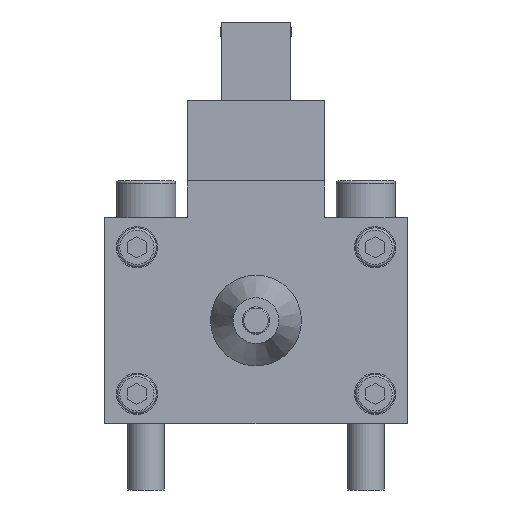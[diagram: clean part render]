
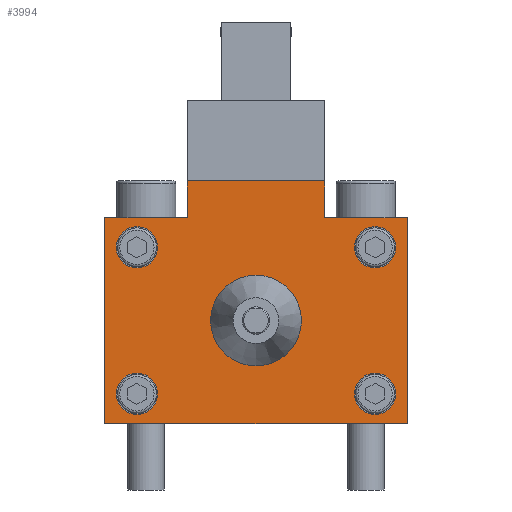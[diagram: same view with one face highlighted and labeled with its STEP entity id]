
A CAD part, left-side view. The second image highlights one B-rep face of the part: STEP entity #3994.
In plain terms, the highlighted planar face has unit normal (-1, 0, 0).
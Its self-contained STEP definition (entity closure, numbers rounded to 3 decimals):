
#1183=CARTESIAN_POINT('',(-84.0,-26.,11.5));
#1184=VERTEX_POINT('',#1183);
#1185=CARTESIAN_POINT('',(-84.0,-26.,16.));
#1186=DIRECTION('',(1.0,0.0,0.0));
#1187=DIRECTION('',(0.0,0.0,1.0));
#1188=AXIS2_PLACEMENT_3D('',#1185,#1186,#1187);
#1189=CIRCLE('',#1188,4.5);
#1190=EDGE_CURVE('',#1184,#1184,#1189,.T.);
#1223=CARTESIAN_POINT('',(-84.0,26.,11.5));
#1224=VERTEX_POINT('',#1223);
#1225=CARTESIAN_POINT('',(-84.0,26.,16.));
#1226=DIRECTION('',(1.0,0.0,0.0));
#1227=DIRECTION('',(0.0,0.0,1.0));
#1228=AXIS2_PLACEMENT_3D('',#1225,#1226,#1227);
#1229=CIRCLE('',#1228,4.5);
#1230=EDGE_CURVE('',#1224,#1224,#1229,.T.);
#1263=CARTESIAN_POINT('',(-84.0,26.,-20.5));
#1264=VERTEX_POINT('',#1263);
#1265=CARTESIAN_POINT('',(-84.0,26.,-16.));
#1266=DIRECTION('',(1.0,0.0,0.0));
#1267=DIRECTION('',(0.0,0.0,1.0));
#1268=AXIS2_PLACEMENT_3D('',#1265,#1266,#1267);
#1269=CIRCLE('',#1268,4.5);
#1270=EDGE_CURVE('',#1264,#1264,#1269,.T.);
#1303=CARTESIAN_POINT('',(-84.0,-26.,-20.5));
#1304=VERTEX_POINT('',#1303);
#1305=CARTESIAN_POINT('',(-84.0,-26.,-16.));
#1306=DIRECTION('',(1.0,0.0,0.0));
#1307=DIRECTION('',(0.0,0.0,1.0));
#1308=AXIS2_PLACEMENT_3D('',#1305,#1306,#1307);
#1309=CIRCLE('',#1308,4.5);
#1310=EDGE_CURVE('',#1304,#1304,#1309,.T.);
#3900=CARTESIAN_POINT('',(-84.0,-33.0,0.0));
#3901=DIRECTION('',(-1.0,0.0,0.0));
#3902=DIRECTION('',(0.0,0.0,1.0));
#3903=AXIS2_PLACEMENT_3D('',#3900,#3901,#3902);
#3904=PLANE('',#3903);
#3905=CARTESIAN_POINT('',(-84.0,33.0,-22.5));
#3906=VERTEX_POINT('',#3905);
#3907=CARTESIAN_POINT('',(-84.0,-33.0,-22.5));
#3908=VERTEX_POINT('',#3907);
#3909=CARTESIAN_POINT('',(-84.0,33.0,-22.5));
#3910=DIRECTION('',(0.0,-1.0,0.0));
#3911=VECTOR('',#3910,66.0);
#3912=LINE('',#3909,#3911);
#3913=EDGE_CURVE('',#3906,#3908,#3912,.T.);
#3914=ORIENTED_EDGE('',*,*,#3913,.T.);
#3915=CARTESIAN_POINT('',(-84.0,-33.0,22.5));
#3916=VERTEX_POINT('',#3915);
#3917=CARTESIAN_POINT('',(-84.0,-33.0,22.5));
#3918=DIRECTION('',(0.0,0.0,-1.0));
#3919=VECTOR('',#3918,45.0);
#3920=LINE('',#3917,#3919);
#3921=EDGE_CURVE('',#3916,#3908,#3920,.T.);
#3922=ORIENTED_EDGE('',*,*,#3921,.F.);
#3923=CARTESIAN_POINT('',(-84.0,-15.0,22.5));
#3924=VERTEX_POINT('',#3923);
#3925=CARTESIAN_POINT('',(-84.0,-33.0,22.5));
#3926=DIRECTION('',(0.0,1.0,0.0));
#3927=VECTOR('',#3926,18.0);
#3928=LINE('',#3925,#3927);
#3929=EDGE_CURVE('',#3916,#3924,#3928,.T.);
#3930=ORIENTED_EDGE('',*,*,#3929,.T.);
#3931=CARTESIAN_POINT('',(-84.0,-15.0,30.5));
#3932=VERTEX_POINT('',#3931);
#3933=CARTESIAN_POINT('',(-84.0,-15.0,22.5));
#3934=DIRECTION('',(0.0,0.0,1.0));
#3935=VECTOR('',#3934,8.0);
#3936=LINE('',#3933,#3935);
#3937=EDGE_CURVE('',#3924,#3932,#3936,.T.);
#3938=ORIENTED_EDGE('',*,*,#3937,.T.);
#3939=CARTESIAN_POINT('',(-84.0,15.0,30.5));
#3940=VERTEX_POINT('',#3939);
#3941=CARTESIAN_POINT('',(-84.0,-15.0,30.5));
#3942=DIRECTION('',(0.0,1.0,0.0));
#3943=VECTOR('',#3942,30.0);
#3944=LINE('',#3941,#3943);
#3945=EDGE_CURVE('',#3932,#3940,#3944,.T.);
#3946=ORIENTED_EDGE('',*,*,#3945,.T.);
#3947=CARTESIAN_POINT('',(-84.0,15.0,22.5));
#3948=VERTEX_POINT('',#3947);
#3949=CARTESIAN_POINT('',(-84.0,15.0,22.5));
#3950=DIRECTION('',(0.0,0.0,1.0));
#3951=VECTOR('',#3950,8.0);
#3952=LINE('',#3949,#3951);
#3953=EDGE_CURVE('',#3948,#3940,#3952,.T.);
#3954=ORIENTED_EDGE('',*,*,#3953,.F.);
#3955=CARTESIAN_POINT('',(-84.0,33.0,22.5));
#3956=VERTEX_POINT('',#3955);
#3957=CARTESIAN_POINT('',(-84.0,15.0,22.5));
#3958=DIRECTION('',(0.0,1.0,0.0));
#3959=VECTOR('',#3958,18.0);
#3960=LINE('',#3957,#3959);
#3961=EDGE_CURVE('',#3948,#3956,#3960,.T.);
#3962=ORIENTED_EDGE('',*,*,#3961,.T.);
#3963=CARTESIAN_POINT('',(-84.0,33.0,-22.5));
#3964=DIRECTION('',(0.0,0.0,1.0));
#3965=VECTOR('',#3964,45.0);
#3966=LINE('',#3963,#3965);
#3967=EDGE_CURVE('',#3906,#3956,#3966,.T.);
#3968=ORIENTED_EDGE('',*,*,#3967,.F.);
#3969=EDGE_LOOP('',(#3914,#3922,#3930,#3938,#3946,#3954,#3962,#3968));
#3970=FACE_OUTER_BOUND('',#3969,.T.);
#3971=ORIENTED_EDGE('',*,*,#1190,.T.);
#3972=EDGE_LOOP('',(#3971));
#3973=FACE_BOUND('',#3972,.T.);
#3974=ORIENTED_EDGE('',*,*,#1230,.T.);
#3975=EDGE_LOOP('',(#3974));
#3976=FACE_BOUND('',#3975,.T.);
#3977=ORIENTED_EDGE('',*,*,#1270,.T.);
#3978=EDGE_LOOP('',(#3977));
#3979=FACE_BOUND('',#3978,.T.);
#3980=ORIENTED_EDGE('',*,*,#1310,.T.);
#3981=EDGE_LOOP('',(#3980));
#3982=FACE_BOUND('',#3981,.T.);
#3983=CARTESIAN_POINT('',(-84.0,0.,9.914));
#3984=VERTEX_POINT('',#3983);
#3985=CARTESIAN_POINT('',(-84.0,0.0,0.0));
#3986=DIRECTION('',(1.0,0.0,0.0));
#3987=DIRECTION('',(0.0,0.0,-1.0));
#3988=AXIS2_PLACEMENT_3D('',#3985,#3986,#3987);
#3989=CIRCLE('',#3988,9.914);
#3990=EDGE_CURVE('',#3984,#3984,#3989,.T.);
#3991=ORIENTED_EDGE('',*,*,#3990,.T.);
#3992=EDGE_LOOP('',(#3991));
#3993=FACE_BOUND('',#3992,.T.);
#3994=ADVANCED_FACE('',(#3970,#3973,#3976,#3979,#3982,#3993),#3904,.T.);
